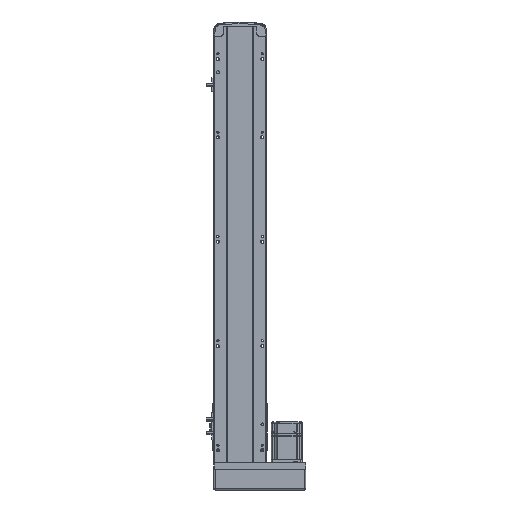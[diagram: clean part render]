
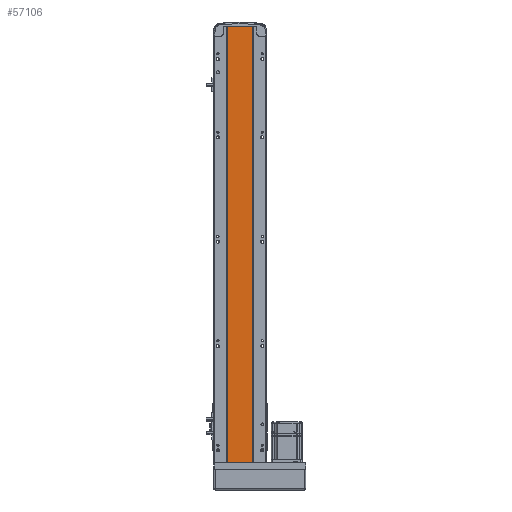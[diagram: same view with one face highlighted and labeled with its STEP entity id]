
A CAD part, front view. The second image highlights one B-rep face of the part: STEP entity #57106.
In plain terms, the highlighted planar face has unit normal (0, -1, 0).
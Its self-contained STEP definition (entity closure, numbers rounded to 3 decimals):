
#144 = AXIS2_PLACEMENT_3D ( 'NONE', #20984, #58208, #6578 ) ;
#782 = VERTEX_POINT ( 'NONE', #38959 ) ;
#2964 = LINE ( 'NONE', #51873, #19663 ) ;
#5644 = CARTESIAN_POINT ( 'NONE',  ( 0., 2., 0. ) ) ;
#6578 = DIRECTION ( 'NONE',  ( 0., 0., 1. ) ) ;
#8361 = DIRECTION ( 'NONE',  ( 0., 0., -1. ) ) ;
#9129 = VECTOR ( 'NONE', #37672, 1000. ) ;
#10168 = VECTOR ( 'NONE', #8361, 1000. ) ;
#14145 = EDGE_CURVE ( 'NONE', #782, #27826, #33791, .T. ) ;
#16331 = ORIENTED_EDGE ( 'NONE', *, *, #59269, .T. ) ;
#19663 = VECTOR ( 'NONE', #24341, 1000. ) ;
#20984 = CARTESIAN_POINT ( 'NONE',  ( 0., 2., 837. ) ) ;
#24341 = DIRECTION ( 'NONE',  ( 1., 0., 0. ) ) ;
#27826 = VERTEX_POINT ( 'NONE', #54747 ) ;
#30128 = LINE ( 'NONE', #34649, #49659 ) ;
#32949 = CARTESIAN_POINT ( 'NONE',  ( -24.5, 2., 837. ) ) ;
#33791 = LINE ( 'NONE', #5644, #9129 ) ;
#34649 = CARTESIAN_POINT ( 'NONE',  ( -24.5, 2., 837. ) ) ;
#35628 = EDGE_LOOP ( 'NONE', ( #42302, #53412, #44798, #16331 ) ) ;
#37672 = DIRECTION ( 'NONE',  ( 1., 0., 0. ) ) ;
#38169 = VERTEX_POINT ( 'NONE', #32949 ) ;
#38959 = CARTESIAN_POINT ( 'NONE',  ( -24.5, 2., 0. ) ) ;
#41341 = LINE ( 'NONE', #54167, #10168 ) ;
#42302 = ORIENTED_EDGE ( 'NONE', *, *, #14145, .T. ) ;
#43728 = EDGE_CURVE ( 'NONE', #38169, #59598, #2964, .T. ) ;
#44798 = ORIENTED_EDGE ( 'NONE', *, *, #43728, .F. ) ;
#47153 = CARTESIAN_POINT ( 'NONE',  ( 24.5, 2., 837. ) ) ;
#48599 = DIRECTION ( 'NONE',  ( 0., 0., -1. ) ) ;
#49659 = VECTOR ( 'NONE', #48599, 1000. ) ;
#51873 = CARTESIAN_POINT ( 'NONE',  ( -24.5, 2., 837. ) ) ;
#53412 = ORIENTED_EDGE ( 'NONE', *, *, #54579, .F. ) ;
#53570 = PLANE ( 'NONE',  #144 ) ;
#54167 = CARTESIAN_POINT ( 'NONE',  ( 24.5, 2., 837. ) ) ;
#54579 = EDGE_CURVE ( 'NONE', #59598, #27826, #41341, .T. ) ;
#54747 = CARTESIAN_POINT ( 'NONE',  ( 24.5, 2., 0. ) ) ;
#56418 = FACE_OUTER_BOUND ( 'NONE', #35628, .T. ) ;
#57106 = ADVANCED_FACE ( 'NONE', ( #56418 ), #53570, .F. ) ;
#58208 = DIRECTION ( 'NONE',  ( 0., 1., 0. ) ) ;
#59269 = EDGE_CURVE ( 'NONE', #38169, #782, #30128, .T. ) ;
#59598 = VERTEX_POINT ( 'NONE', #47153 ) ;
